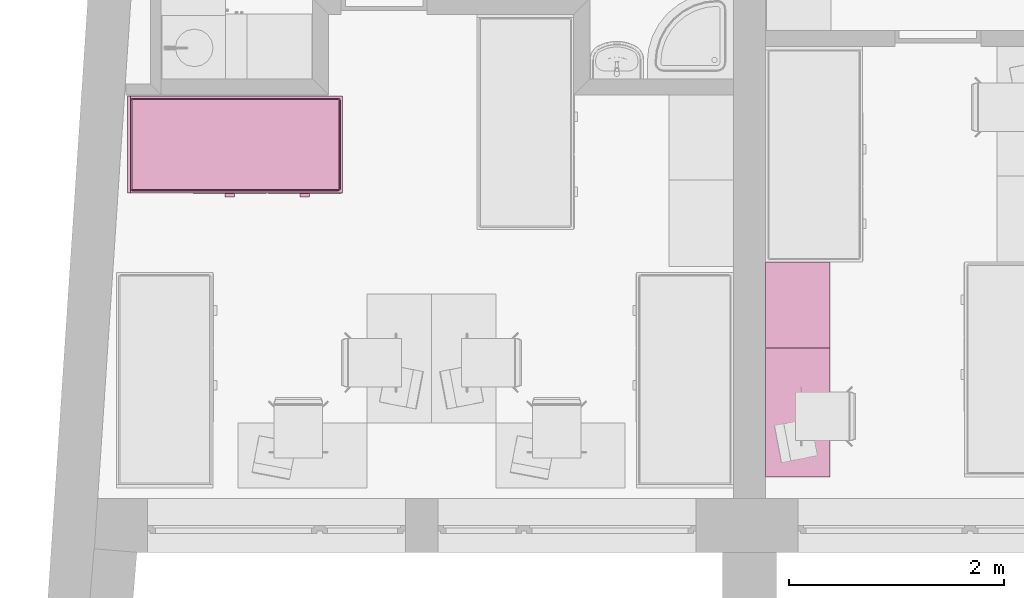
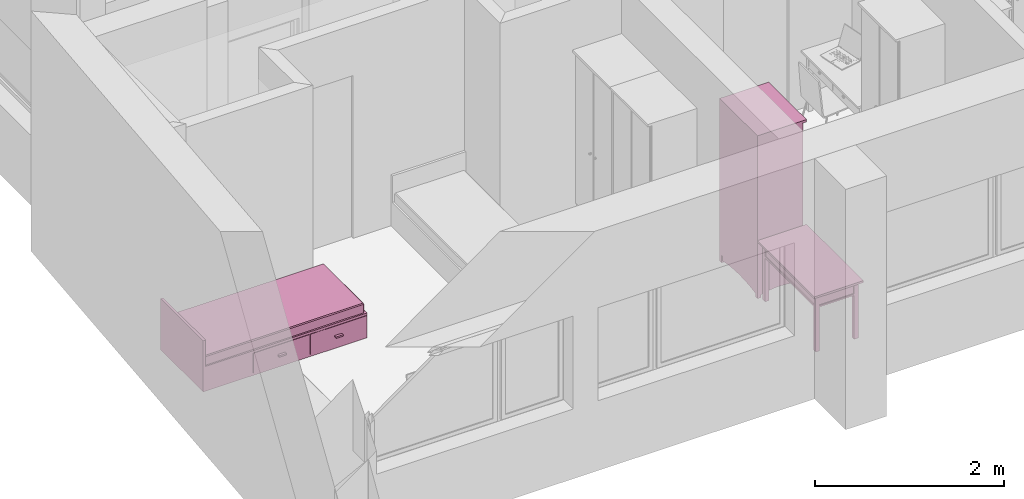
# One storey, part 76 of 172: 3 furnishings.
"""IFC2X3 building model written with IfcOpenShell, lengths in millimetres."""

from ifc_helpers import new_model, entity, si_unit, converted_unit, money_unit, direction, frame, origin_with_axes, place, context, subcontext, project, spatial, faceted_brep, source, transform, mapped, material, material_list, type_object, element, save


model = new_model("IFC2X3")

# Units and contexts
model_context = context("Model", 3, precision=1e-05, world=origin_with_axes(), true_north=direction((0.0, 1.0)))
body_context = subcontext(model_context, "Body", "Model", "MODEL_VIEW")
ifc_project = project(units=[si_unit("LENGTHUNIT", "METRE", prefix="MILLI"), si_unit("AREAUNIT", "SQUARE_METRE"), si_unit("VOLUMEUNIT", "CUBIC_METRE"), converted_unit("PLANEANGLEUNIT", "DEGREE", entity("IfcPlaneAngleMeasure", 0.0174532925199), si_unit("PLANEANGLEUNIT", "RADIAN"), dimensions=[0, 0, 0, 0, 0, 0, 0]), si_unit("SOLIDANGLEUNIT", "STERADIAN"), money_unit("USD"), converted_unit("TIMEUNIT", "Year", entity("IfcTimeMeasure", 31556926.0), si_unit("TIMEUNIT", "SECOND"), dimensions=[0, 0, 0, 0, 0, 0, 0]), si_unit("MASSUNIT", "GRAM"), si_unit("THERMODYNAMICTEMPERATUREUNIT", "DEGREE_CELSIUS"), si_unit("LUMINOUSINTENSITYUNIT", "LUMEN")], contexts=[model_context])

# Site, building, storey
site_placement = place(None, origin_with_axes())
site = spatial("IfcSite", under=ifc_project, at=site_placement, Name="Site", CompositionType="ELEMENT")
building_placement = place(site_placement, origin_with_axes())
building = spatial("IfcBuilding", under=site, at=building_placement, Name="Building", CompositionType="ELEMENT")
storey_placement = place(building_placement, frame((0.0, 0.0, 3200.0), z_axis=(0.0, 0.0, 1.0), x_axis=(1.0, 0.0, 0.0)))
storey = spatial("IfcBuildingStorey", under=building, at=storey_placement, Name="3KORRUS", CompositionType="ELEMENT", Elevation=3200.0)

# Furnishings
ifc_material = material(Name="Background")
ifc_material_list = material_list([ifc_material])
furnishing_element_type_1 = type_object("IfcFurnishingElementType", Name="Cupboard 19")
shared_shape_1 = source(origin_with_axes(), body_context, "Body", "Brep", [
    faceted_brep([(780.0, 600.0, 120.0), (780.0, 600.0, 2050.0), (780.0, 580.0, 2050.0), (780.0, 580.0, 120.0), (20.0, 600.0, 120.0), (20.0, 600.0, 2050.0), (20.0, 580.0, 2050.0), (20.0, 580.0, 120.0)], [[[0, 1, 2, 3]], [[4, 5, 1, 0]], [[1, 5, 6, 2]], [[3, 2, 6, 7]], [[0, 3, 7, 4]], [[7, 6, 5, 4]]]),
    faceted_brep([(0.0, 50.0, 100.0), (0.0, 600.0, 100.0), (20.0, 600.0, 100.0), (20.0, 50.0, 100.0), (0.0, 50.0, 2070.0), (0.0, 600.0, 2070.0), (20.0, 600.0, 2070.0), (20.0, 50.0, 2070.0)], [[[0, 1, 2, 3]], [[0, 4, 5, 1]], [[1, 5, 6, 2]], [[2, 6, 7, 3]], [[3, 7, 4, 0]], [[7, 6, 5, 4]]]),
    faceted_brep([(780.0, 50.0, 100.0), (780.0, 600.0, 100.0), (800.0, 600.0, 100.0), (800.0, 50.0, 100.0), (780.0, 50.0, 2070.0), (780.0, 600.0, 2070.0), (800.0, 600.0, 2070.0), (800.0, 50.0, 2070.0)], [[[0, 1, 2, 3]], [[0, 4, 5, 1]], [[1, 5, 6, 2]], [[2, 6, 7, 3]], [[3, 7, 4, 0]], [[7, 6, 5, 4]]]),
    faceted_brep([(20.0, 50.0, 100.0), (20.0, 600.0, 100.0), (780.0, 600.0, 100.0), (780.0, 50.0, 100.0), (20.0, 50.0, 120.0), (20.0, 600.0, 120.0), (780.0, 600.0, 120.0), (780.0, 50.0, 120.0)], [[[0, 1, 2, 3]], [[0, 4, 5, 1]], [[1, 5, 6, 2]], [[2, 6, 7, 3]], [[3, 7, 4, 0]], [[7, 6, 5, 4]]]),
    faceted_brep([(20.0, 50.0, 2050.0), (20.0, 600.0, 2050.0), (780.0, 600.0, 2050.0), (780.0, 50.0, 2050.0), (20.0, 50.0, 2070.0), (20.0, 600.0, 2070.0), (780.0, 600.0, 2070.0), (780.0, 50.0, 2070.0)], [[[0, 1, 2, 3]], [[0, 4, 5, 1]], [[1, 5, 6, 2]], [[2, 6, 7, 3]], [[3, 7, 4, 0]], [[7, 6, 5, 4]]]),
    faceted_brep([(0.0, 600.0, 2070.0), (0.0, 0.0, 2070.0), (0.0, 0.0, 2100.0), (0.0, 600.0, 2100.0), (800.0, 600.0, 2070.0), (800.0, 0.0, 2070.0), (800.0, 0.0, 2100.0), (800.0, 600.0, 2100.0)], [[[0, 1, 2, 3]], [[0, 4, 5, 1]], [[1, 5, 6, 2]], [[3, 2, 6, 7]], [[4, 0, 3, 7]], [[5, 4, 7, 6]]]),
    faceted_brep([(760.0, 590.0, 25.0), (760.0, 570.0, 25.0), (640.962, 570.0, 45.8), (640.962, 590.0, 45.8), (760.0, 590.0, 100.0), (760.0, 570.0, 100.0), (40.0, 570.0, 100.0), (40.0, 570.0, 25.0), (159.038, 570.0, 45.8), (279.23, 570.0, 58.32), (400.0, 570.0, 62.5), (520.77, 570.0, 58.32), (520.77, 590.0, 58.32), (400.0, 590.0, 62.5), (279.23, 590.0, 58.32), (159.038, 590.0, 45.8), (40.0, 590.0, 25.0), (40.0, 590.0, 100.0)], [[[0, 1, 2, 3]], [[4, 5, 1, 0]], [[1, 5, 6, 7, 8, 9, 10, 11, 2]], [[3, 2, 11, 12]], [[0, 3, 12, 13, 14, 15, 16, 17, 4]], [[17, 6, 5, 4]], [[16, 7, 6, 17]], [[15, 8, 7, 16]], [[14, 9, 8, 15]], [[13, 10, 9, 14]], [[12, 11, 10, 13]]]),
    faceted_brep([(760.0, 80.0, 25.0), (760.0, 60.0, 25.0), (640.962, 60.0, 45.8), (640.962, 80.0, 45.8), (760.0, 80.0, 100.0), (760.0, 60.0, 100.0), (40.0, 60.0, 100.0), (40.0, 60.0, 25.0), (159.038, 60.0, 45.8), (279.23, 60.0, 58.32), (400.0, 60.0, 62.5), (520.77, 60.0, 58.32), (520.77, 80.0, 58.32), (400.0, 80.0, 62.5), (279.23, 80.0, 58.32), (159.038, 80.0, 45.8), (40.0, 80.0, 25.0), (40.0, 80.0, 100.0)], [[[0, 1, 2, 3]], [[4, 5, 1, 0]], [[1, 5, 6, 7, 8, 9, 10, 11, 2]], [[3, 2, 11, 12]], [[0, 3, 12, 13, 14, 15, 16, 17, 4]], [[17, 6, 5, 4]], [[16, 7, 6, 17]], [[15, 8, 7, 16]], [[14, 9, 8, 15]], [[13, 10, 9, 14]], [[12, 11, 10, 13]]]),
    faceted_brep([(790.0, 90.0, 25.0), (770.0, 90.0, 25.0), (770.0, 141.266, 38.072), (790.0, 141.266, 38.072), (790.0, 90.0, 100.0), (770.0, 90.0, 100.0), (770.0, 560.0, 100.0), (770.0, 560.0, 25.0), (770.0, 508.734, 38.072), (770.0, 456.752, 47.92), (770.0, 404.257, 54.508), (770.0, 351.453, 57.808), (770.0, 298.547, 57.808), (770.0, 245.743, 54.508), (770.0, 193.248, 47.92), (790.0, 193.248, 47.92), (790.0, 245.743, 54.508), (790.0, 298.547, 57.808), (790.0, 351.453, 57.808), (790.0, 404.257, 54.508), (790.0, 456.752, 47.92), (790.0, 508.734, 38.072), (790.0, 560.0, 25.0), (790.0, 560.0, 100.0)], [[[0, 1, 2, 3]], [[4, 5, 1, 0]], [[1, 5, 6, 7, 8, 9, 10, 11, 12, 13, 14, 2]], [[3, 2, 14, 15]], [[0, 3, 15, 16, 17, 18, 19, 20, 21, 22, 23, 4]], [[23, 6, 5, 4]], [[22, 7, 6, 23]], [[21, 8, 7, 22]], [[20, 9, 8, 21]], [[19, 10, 9, 20]], [[18, 11, 10, 19]], [[17, 12, 11, 18]], [[16, 13, 12, 17]], [[15, 14, 13, 16]]]),
    faceted_brep([(30.0, 90.0, 25.0), (10.0, 90.0, 25.0), (10.0, 141.266, 38.072), (30.0, 141.266, 38.072), (30.0, 90.0, 100.0), (10.0, 90.0, 100.0), (10.0, 560.0, 100.0), (10.0, 560.0, 25.0), (10.0, 508.734, 38.072), (10.0, 456.752, 47.92), (10.0, 404.257, 54.508), (10.0, 351.453, 57.808), (10.0, 298.547, 57.808), (10.0, 245.743, 54.508), (10.0, 193.248, 47.92), (30.0, 193.248, 47.92), (30.0, 245.743, 54.508), (30.0, 298.547, 57.808), (30.0, 351.453, 57.808), (30.0, 404.257, 54.508), (30.0, 456.752, 47.92), (30.0, 508.734, 38.072), (30.0, 560.0, 25.0), (30.0, 560.0, 100.0)], [[[0, 1, 2, 3]], [[4, 5, 1, 0]], [[1, 5, 6, 7, 8, 9, 10, 11, 12, 13, 14, 2]], [[3, 2, 14, 15]], [[0, 3, 15, 16, 17, 18, 19, 20, 21, 22, 23, 4]], [[23, 6, 5, 4]], [[22, 7, 6, 23]], [[21, 8, 7, 22]], [[20, 9, 8, 21]], [[19, 10, 9, 20]], [[18, 11, 10, 19]], [[17, 12, 11, 18]], [[16, 13, 12, 17]], [[15, 14, 13, 16]]]),
    faceted_brep([(760.0, 560.0, 0.0), (760.0, 560.0, 100.0), (760.0, 600.0, 100.0), (760.0, 600.0, 0.0), (800.0, 560.0, 0.0), (800.0, 560.0, 100.0), (800.0, 600.0, 100.0), (800.0, 600.0, 0.0)], [[[0, 1, 2, 3]], [[4, 5, 1, 0]], [[1, 5, 6, 2]], [[3, 2, 6, 7]], [[0, 3, 7, 4]], [[7, 6, 5, 4]]]),
    faceted_brep([(0.0, 560.0, 0.0), (0.0, 560.0, 100.0), (0.0, 600.0, 100.0), (0.0, 600.0, 0.0), (40.0, 560.0, 0.0), (40.0, 560.0, 100.0), (40.0, 600.0, 100.0), (40.0, 600.0, 0.0)], [[[0, 1, 2, 3]], [[4, 5, 1, 0]], [[1, 5, 6, 2]], [[3, 2, 6, 7]], [[0, 3, 7, 4]], [[7, 6, 5, 4]]]),
    faceted_brep([(760.0, 50.0, 0.0), (760.0, 50.0, 100.0), (760.0, 90.0, 100.0), (760.0, 90.0, 0.0), (800.0, 50.0, 0.0), (800.0, 50.0, 100.0), (800.0, 90.0, 100.0), (800.0, 90.0, 0.0)], [[[0, 1, 2, 3]], [[4, 5, 1, 0]], [[1, 5, 6, 2]], [[3, 2, 6, 7]], [[0, 3, 7, 4]], [[7, 6, 5, 4]]]),
    faceted_brep([(0.0, 50.0, 0.0), (0.0, 50.0, 100.0), (0.0, 90.0, 100.0), (0.0, 90.0, 0.0), (40.0, 50.0, 0.0), (40.0, 50.0, 100.0), (40.0, 90.0, 100.0), (40.0, 90.0, 0.0)], [[[0, 1, 2, 3]], [[4, 5, 1, 0]], [[1, 5, 6, 2]], [[3, 2, 6, 7]], [[0, 3, 7, 4]], [[7, 6, 5, 4]]]),
    faceted_brep([(780.0, 580.0, 587.5), (780.0, 580.0, 607.5), (780.0, 50.0, 607.5), (780.0, 50.0, 587.5), (20.0, 580.0, 587.5), (20.0, 580.0, 607.5), (20.0, 50.0, 607.5), (20.0, 50.0, 587.5)], [[[0, 1, 2, 3]], [[4, 5, 1, 0]], [[1, 5, 6, 2]], [[3, 2, 6, 7]], [[0, 3, 7, 4]], [[7, 6, 5, 4]]]),
    faceted_brep([(780.0, 580.0, 1075.0), (780.0, 580.0, 1095.0), (780.0, 50.0, 1095.0), (780.0, 50.0, 1075.0), (20.0, 580.0, 1075.0), (20.0, 580.0, 1095.0), (20.0, 50.0, 1095.0), (20.0, 50.0, 1075.0)], [[[0, 1, 2, 3]], [[4, 5, 1, 0]], [[1, 5, 6, 2]], [[3, 2, 6, 7]], [[0, 3, 7, 4]], [[7, 6, 5, 4]]]),
    faceted_brep([(780.0, 580.0, 1562.5), (780.0, 580.0, 1582.5), (780.0, 50.0, 1582.5), (780.0, 50.0, 1562.5), (20.0, 580.0, 1562.5), (20.0, 580.0, 1582.5), (20.0, 50.0, 1582.5), (20.0, 50.0, 1562.5)], [[[0, 1, 2, 3]], [[4, 5, 1, 0]], [[1, 5, 6, 2]], [[3, 2, 6, 7]], [[0, 3, 7, 4]], [[7, 6, 5, 4]]]),
    faceted_brep([(789.5, 50.0, 110.5), (400.5, 50.0, 110.5), (400.5, 50.0, 2059.5), (789.5, 50.0, 2059.5), (789.5, 40.0, 110.5), (400.5, 40.0, 110.5), (400.5, 40.0, 2059.5), (789.5, 40.0, 2059.5), (779.5, 30.0, 120.5), (410.5, 30.0, 120.5), (410.5, 30.0, 2049.5), (779.5, 30.0, 2049.5)], [[[0, 1, 2, 3]], [[0, 4, 5, 1]], [[1, 5, 6, 2]], [[2, 6, 7, 3]], [[3, 7, 4, 0]], [[4, 8, 9, 5]], [[5, 9, 10, 6]], [[6, 10, 11, 7]], [[7, 11, 8, 4]], [[10, 9, 8, 11]]]),
    faceted_brep([(399.5, 50.0, 110.5), (10.5, 50.0, 110.5), (10.5, 50.0, 2059.5), (399.5, 50.0, 2059.5), (399.5, 40.0, 110.5), (10.5, 40.0, 110.5), (10.5, 40.0, 2059.5), (399.5, 40.0, 2059.5), (389.5, 30.0, 120.5), (20.5, 30.0, 120.5), (20.5, 30.0, 2049.5), (389.5, 30.0, 2049.5)], [[[0, 1, 2, 3]], [[0, 4, 5, 1]], [[1, 5, 6, 2]], [[2, 6, 7, 3]], [[3, 7, 4, 0]], [[4, 8, 9, 5]], [[5, 9, 10, 6]], [[6, 10, 11, 7]], [[7, 11, 8, 4]], [[10, 9, 8, 11]]]),
    faceted_brep([(339.608, 30.0, 954.0), (338.0, 30.0, 960.0), (339.608, 30.0, 966.0), (344.0, 30.0, 970.392), (350.0, 30.0, 972.0), (356.0, 30.0, 970.392), (360.392, 30.0, 966.0), (362.0, 30.0, 960.0), (360.392, 30.0, 954.0), (356.0, 30.0, 949.608), (350.0, 30.0, 948.0), (344.0, 30.0, 949.608), (339.608, 5.0, 954.0), (338.0, 5.0, 960.0), (339.608, 5.0, 966.0), (344.0, 5.0, 970.392), (350.0, 5.0, 972.0), (356.0, 5.0, 970.392), (360.392, 5.0, 966.0), (362.0, 5.0, 960.0), (360.392, 5.0, 954.0), (356.0, 5.0, 949.608), (350.0, 5.0, 948.0), (344.0, 5.0, 949.608)], [[[0, 1, 2, 3, 4, 5, 6, 7, 8, 9, 10, 11]], [[0, 12, 13, 1]], [[1, 13, 14, 2]], [[2, 14, 15, 3]], [[3, 15, 16, 4]], [[4, 16, 17, 5]], [[5, 17, 18, 6]], [[6, 18, 19, 7]], [[7, 19, 20, 8]], [[8, 20, 21, 9]], [[9, 21, 22, 10]], [[10, 22, 23, 11]], [[11, 23, 12, 0]], [[12, 23, 22, 21, 20, 19, 18, 17, 16, 15, 14, 13]]]),
    faceted_brep([(460.392, 30.0, 954.0), (456.0, 30.0, 949.608), (450.0, 30.0, 948.0), (444.0, 30.0, 949.608), (439.608, 30.0, 954.0), (438.0, 30.0, 960.0), (439.608, 30.0, 966.0), (444.0, 30.0, 970.392), (450.0, 30.0, 972.0), (456.0, 30.0, 970.392), (460.392, 30.0, 966.0), (462.0, 30.0, 960.0), (460.392, 5.0, 954.0), (456.0, 5.0, 949.608), (450.0, 5.0, 948.0), (444.0, 5.0, 949.608), (439.608, 5.0, 954.0), (438.0, 5.0, 960.0), (439.608, 5.0, 966.0), (444.0, 5.0, 970.392), (450.0, 5.0, 972.0), (456.0, 5.0, 970.392), (460.392, 5.0, 966.0), (462.0, 5.0, 960.0)], [[[0, 1, 2, 3, 4, 5, 6, 7, 8, 9, 10, 11]], [[1, 0, 12, 13]], [[2, 1, 13, 14]], [[3, 2, 14, 15]], [[4, 3, 15, 16]], [[5, 4, 16, 17]], [[6, 5, 17, 18]], [[7, 6, 18, 19]], [[8, 7, 19, 20]], [[9, 8, 20, 21]], [[10, 9, 21, 22]], [[11, 10, 22, 23]], [[0, 11, 23, 12]], [[12, 23, 22, 21, 20, 19, 18, 17, 16, 15, 14, 13]]]),
])
furnishing_1_placement = place(storey_placement, frame((-47390.2967033, -18239.2398994, 0.0), z_axis=(0.0, 0.0, 1.0), x_axis=(0.0, 1.0, 0.0)))
element("IfcFurnishingElement", 1, at=furnishing_1_placement, inside=storey, type_object=furnishing_element_type_1, material=ifc_material_list, Name="FU - 014", context=body_context, shape_type="MappedRepresentation", body=[
    mapped(shared_shape_1, transform((0.0, 0.0, 0.0))),
])
furnishing_element_type_2 = type_object("IfcFurnishingElementType", Name="Rectangular Table 01 19")
shared_shape_2 = source(origin_with_axes(), body_context, "Body", "Brep", [
    faceted_brep([(90.0, 40.0, 0.0), (40.0, 40.0, 0.0), (40.0, 90.0, 0.0), (90.0, 90.0, 0.0), (90.0, 40.0, 725.0), (40.0, 40.0, 725.0), (40.0, 90.0, 725.0), (90.0, 90.0, 725.0)], [[[0, 1, 2, 3]], [[1, 0, 4, 5]], [[2, 1, 5, 6]], [[3, 2, 6, 7]], [[0, 3, 7, 4]], [[5, 4, 7, 6]]]),
    faceted_brep([(1160.0, 40.0, 0.0), (1110.0, 40.0, 0.0), (1110.0, 90.0, 0.0), (1160.0, 90.0, 0.0), (1160.0, 40.0, 725.0), (1110.0, 40.0, 725.0), (1110.0, 90.0, 725.0), (1160.0, 90.0, 725.0)], [[[0, 1, 2, 3]], [[1, 0, 4, 5]], [[2, 1, 5, 6]], [[3, 2, 6, 7]], [[0, 3, 7, 4]], [[5, 4, 7, 6]]]),
    faceted_brep([(90.0, 510.0, 0.0), (40.0, 510.0, 0.0), (40.0, 560.0, 0.0), (90.0, 560.0, 0.0), (90.0, 510.0, 725.0), (40.0, 510.0, 725.0), (40.0, 560.0, 725.0), (90.0, 560.0, 725.0)], [[[0, 1, 2, 3]], [[1, 0, 4, 5]], [[2, 1, 5, 6]], [[3, 2, 6, 7]], [[0, 3, 7, 4]], [[5, 4, 7, 6]]]),
    faceted_brep([(1160.0, 510.0, 0.0), (1110.0, 510.0, 0.0), (1110.0, 560.0, 0.0), (1160.0, 560.0, 0.0), (1160.0, 510.0, 725.0), (1110.0, 510.0, 725.0), (1110.0, 560.0, 725.0), (1160.0, 560.0, 725.0)], [[[0, 1, 2, 3]], [[1, 0, 4, 5]], [[2, 1, 5, 6]], [[3, 2, 6, 7]], [[0, 3, 7, 4]], [[5, 4, 7, 6]]]),
    faceted_brep([(1160.0, 40.0, 565.0), (40.0, 40.0, 565.0), (40.0, 560.0, 565.0), (1160.0, 560.0, 565.0), (1160.0, 40.0, 585.0), (40.0, 40.0, 585.0), (40.0, 560.0, 585.0), (1160.0, 560.0, 585.0)], [[[0, 1, 2, 3]], [[1, 0, 4, 5]], [[2, 1, 5, 6]], [[3, 2, 6, 7]], [[0, 3, 7, 4]], [[5, 4, 7, 6]]]),
    faceted_brep([(1110.0, 52.5, 585.0), (90.0, 52.5, 585.0), (90.0, 77.5, 585.0), (1110.0, 77.5, 585.0), (1110.0, 52.5, 745.0), (90.0, 52.5, 745.0), (90.0, 77.5, 745.0), (1110.0, 77.5, 745.0)], [[[0, 1, 2, 3]], [[1, 0, 4, 5]], [[2, 1, 5, 6]], [[3, 2, 6, 7]], [[0, 3, 7, 4]], [[5, 4, 7, 6]]]),
    faceted_brep([(77.5, 90.0, 585.0), (52.5, 90.0, 585.0), (52.5, 510.0, 585.0), (77.5, 510.0, 585.0), (77.5, 90.0, 745.0), (52.5, 90.0, 745.0), (52.5, 510.0, 745.0), (77.5, 510.0, 745.0)], [[[0, 1, 2, 3]], [[1, 0, 4, 5]], [[2, 1, 5, 6]], [[3, 2, 6, 7]], [[0, 3, 7, 4]], [[5, 4, 7, 6]]]),
    faceted_brep([(90.0, 547.5, 585.0), (1110.0, 547.5, 585.0), (1110.0, 522.5, 585.0), (90.0, 522.5, 585.0), (90.0, 547.5, 745.0), (1110.0, 547.5, 745.0), (1110.0, 522.5, 745.0), (90.0, 522.5, 745.0)], [[[0, 1, 2, 3]], [[1, 0, 4, 5]], [[2, 1, 5, 6]], [[3, 2, 6, 7]], [[0, 3, 7, 4]], [[5, 4, 7, 6]]]),
    faceted_brep([(1122.5, 510.0, 585.0), (1147.5, 510.0, 585.0), (1147.5, 90.0, 585.0), (1122.5, 90.0, 585.0), (1122.5, 510.0, 745.0), (1147.5, 510.0, 745.0), (1147.5, 90.0, 745.0), (1122.5, 90.0, 745.0)], [[[0, 1, 2, 3]], [[1, 0, 4, 5]], [[2, 1, 5, 6]], [[3, 2, 6, 7]], [[0, 3, 7, 4]], [[5, 4, 7, 6]]]),
    faceted_brep([(597.5, 40.0, 585.0), (95.0, 40.0, 585.0), (95.0, 60.0, 585.0), (597.5, 60.0, 585.0), (597.5, 40.0, 745.0), (95.0, 40.0, 745.0), (95.0, 60.0, 745.0), (597.5, 60.0, 745.0)], [[[0, 1, 2, 3]], [[1, 0, 4, 5]], [[2, 1, 5, 6]], [[3, 2, 6, 7]], [[0, 3, 7, 4]], [[5, 4, 7, 6]]]),
    faceted_brep([(1105.0, 40.0, 585.0), (602.5, 40.0, 585.0), (602.5, 60.0, 585.0), (1105.0, 60.0, 585.0), (1105.0, 40.0, 745.0), (602.5, 40.0, 745.0), (602.5, 60.0, 745.0), (1105.0, 60.0, 745.0)], [[[0, 1, 2, 3]], [[1, 0, 4, 5]], [[2, 1, 5, 6]], [[3, 2, 6, 7]], [[0, 3, 7, 4]], [[5, 4, 7, 6]]]),
    faceted_brep([(354.91, 40.0, 660.0), (351.25, 40.0, 656.34), (346.25, 40.0, 655.0), (341.25, 40.0, 656.34), (337.59, 40.0, 660.0), (336.25, 40.0, 665.0), (337.59, 40.0, 670.0), (341.25, 40.0, 673.66), (346.25, 40.0, 675.0), (351.25, 40.0, 673.66), (354.91, 40.0, 670.0), (356.25, 40.0, 665.0), (354.91, 25.0, 660.0), (351.25, 25.0, 656.34), (346.25, 25.0, 655.0), (341.25, 25.0, 656.34), (337.59, 25.0, 660.0), (336.25, 25.0, 665.0), (337.59, 25.0, 670.0), (341.25, 25.0, 673.66), (346.25, 25.0, 675.0), (351.25, 25.0, 673.66), (354.91, 25.0, 670.0), (356.25, 25.0, 665.0)], [[[0, 1, 2, 3, 4, 5, 6, 7, 8, 9, 10, 11]], [[1, 0, 12, 13]], [[2, 1, 13, 14]], [[3, 2, 14, 15]], [[4, 3, 15, 16]], [[5, 4, 16, 17]], [[6, 5, 17, 18]], [[7, 6, 18, 19]], [[8, 7, 19, 20]], [[9, 8, 20, 21]], [[10, 9, 21, 22]], [[11, 10, 22, 23]], [[0, 11, 23, 12]], [[12, 23, 22, 21, 20, 19, 18, 17, 16, 15, 14, 13]]]),
    faceted_brep([(356.25, 12.01, 665.0), (346.25, 10.0, 665.0), (354.91, 12.01, 660.0), (354.91, 12.01, 670.0), (351.25, 12.01, 656.34), (363.571, 17.5, 665.0), (361.25, 17.5, 656.34), (351.25, 12.01, 673.66), (361.25, 17.5, 673.66), (346.25, 12.01, 655.0), (354.91, 17.5, 650.0), (366.25, 25.0, 665.0), (363.571, 25.0, 655.0), (346.25, 12.01, 675.0), (354.91, 17.5, 680.0), (363.571, 25.0, 675.0), (341.25, 12.01, 656.34), (346.25, 17.5, 647.679), (356.25, 25.0, 647.679), (346.25, 25.0, 645.0), (336.25, 25.0, 647.679), (328.929, 25.0, 655.0), (326.25, 25.0, 665.0), (328.929, 25.0, 675.0), (336.25, 25.0, 682.321), (346.25, 25.0, 685.0), (356.25, 25.0, 682.321), (341.25, 12.01, 673.66), (346.25, 17.5, 682.321), (337.59, 12.01, 660.0), (337.59, 17.5, 650.0), (331.25, 17.5, 656.34), (328.929, 17.5, 665.0), (331.25, 17.5, 673.66), (337.59, 17.5, 680.0), (337.59, 12.01, 670.0), (336.25, 12.01, 665.0)], [[[0, 1, 2]], [[3, 1, 0]], [[2, 1, 4]], [[5, 0, 2, 6]], [[7, 1, 3]], [[8, 3, 0, 5]], [[4, 1, 9]], [[6, 2, 4, 10]], [[11, 5, 6, 12]], [[13, 1, 7]], [[14, 7, 3, 8]], [[15, 8, 5, 11]], [[9, 1, 16]], [[10, 4, 9, 17]], [[12, 6, 10, 18]], [[12, 18, 19, 20, 21, 22, 23, 24, 25, 26, 15, 11]], [[27, 1, 13]], [[28, 13, 7, 14]], [[26, 14, 8, 15]], [[16, 1, 29]], [[17, 9, 16, 30]], [[18, 10, 17, 19]], [[19, 17, 30, 20]], [[20, 30, 31, 21]], [[21, 31, 32, 22]], [[22, 32, 33, 23]], [[23, 33, 34, 24]], [[24, 34, 28, 25]], [[25, 28, 14, 26]], [[35, 1, 27]], [[34, 27, 13, 28]], [[29, 1, 36]], [[30, 16, 29, 31]], [[31, 29, 36, 32]], [[32, 36, 35, 33]], [[33, 35, 27, 34]], [[36, 1, 35]]]),
    faceted_brep([(862.41, 40.0, 660.0), (858.75, 40.0, 656.34), (853.75, 40.0, 655.0), (848.75, 40.0, 656.34), (845.09, 40.0, 660.0), (843.75, 40.0, 665.0), (845.09, 40.0, 670.0), (848.75, 40.0, 673.66), (853.75, 40.0, 675.0), (858.75, 40.0, 673.66), (862.41, 40.0, 670.0), (863.75, 40.0, 665.0), (862.41, 25.0, 660.0), (858.75, 25.0, 656.34), (853.75, 25.0, 655.0), (848.75, 25.0, 656.34), (845.09, 25.0, 660.0), (843.75, 25.0, 665.0), (845.09, 25.0, 670.0), (848.75, 25.0, 673.66), (853.75, 25.0, 675.0), (858.75, 25.0, 673.66), (862.41, 25.0, 670.0), (863.75, 25.0, 665.0)], [[[0, 1, 2, 3, 4, 5, 6, 7, 8, 9, 10, 11]], [[1, 0, 12, 13]], [[2, 1, 13, 14]], [[3, 2, 14, 15]], [[4, 3, 15, 16]], [[5, 4, 16, 17]], [[6, 5, 17, 18]], [[7, 6, 18, 19]], [[8, 7, 19, 20]], [[9, 8, 20, 21]], [[10, 9, 21, 22]], [[11, 10, 22, 23]], [[0, 11, 23, 12]], [[12, 23, 22, 21, 20, 19, 18, 17, 16, 15, 14, 13]]]),
    faceted_brep([(863.75, 12.01, 665.0), (853.75, 10.0, 665.0), (862.41, 12.01, 660.0), (862.41, 12.01, 670.0), (858.75, 12.01, 656.34), (871.071, 17.5, 665.0), (868.75, 17.5, 656.34), (858.75, 12.01, 673.66), (868.75, 17.5, 673.66), (853.75, 12.01, 655.0), (862.41, 17.5, 650.0), (873.75, 25.0, 665.0), (871.071, 25.0, 655.0), (853.75, 12.01, 675.0), (862.41, 17.5, 680.0), (871.071, 25.0, 675.0), (848.75, 12.01, 656.34), (853.75, 17.5, 647.679), (863.75, 25.0, 647.679), (853.75, 25.0, 645.0), (843.75, 25.0, 647.679), (836.429, 25.0, 655.0), (833.75, 25.0, 665.0), (836.429, 25.0, 675.0), (843.75, 25.0, 682.321), (853.75, 25.0, 685.0), (863.75, 25.0, 682.321), (848.75, 12.01, 673.66), (853.75, 17.5, 682.321), (845.09, 12.01, 660.0), (845.09, 17.5, 650.0), (838.75, 17.5, 656.34), (836.429, 17.5, 665.0), (838.75, 17.5, 673.66), (845.09, 17.5, 680.0), (845.09, 12.01, 670.0), (843.75, 12.01, 665.0)], [[[0, 1, 2]], [[3, 1, 0]], [[2, 1, 4]], [[5, 0, 2, 6]], [[7, 1, 3]], [[8, 3, 0, 5]], [[4, 1, 9]], [[6, 2, 4, 10]], [[11, 5, 6, 12]], [[13, 1, 7]], [[14, 7, 3, 8]], [[15, 8, 5, 11]], [[9, 1, 16]], [[10, 4, 9, 17]], [[12, 6, 10, 18]], [[12, 18, 19, 20, 21, 22, 23, 24, 25, 26, 15, 11]], [[27, 1, 13]], [[28, 13, 7, 14]], [[26, 14, 8, 15]], [[16, 1, 29]], [[17, 9, 16, 30]], [[18, 10, 17, 19]], [[19, 17, 30, 20]], [[20, 30, 31, 21]], [[21, 31, 32, 22]], [[22, 32, 33, 23]], [[23, 33, 34, 24]], [[24, 34, 28, 25]], [[25, 28, 14, 26]], [[35, 1, 27]], [[34, 27, 13, 28]], [[29, 1, 36]], [[30, 16, 29, 31]], [[31, 29, 36, 32]], [[32, 36, 35, 33]], [[33, 35, 27, 34]], [[36, 1, 35]]]),
    faceted_brep([(1200.0, 0.0, 725.0), (0.0, 0.0, 725.0), (0.0, 600.0, 725.0), (1200.0, 600.0, 725.0), (1200.0, 0.0, 750.0), (0.0, 0.0, 750.0), (0.0, 600.0, 750.0), (1200.0, 600.0, 750.0)], [[[0, 1, 2, 3]], [[1, 0, 4, 5]], [[2, 1, 5, 6]], [[3, 2, 6, 7]], [[0, 3, 7, 4]], [[5, 4, 7, 6]]]),
])
furnishing_2_placement = place(storey_placement, frame((-47390.2967033, -19439.2398994, 0.0), z_axis=(0.0, 0.0, 1.0), x_axis=(0.0, 1.0, 0.0)))
element("IfcFurnishingElement", 2, at=furnishing_2_placement, inside=storey, type_object=furnishing_element_type_2, material=ifc_material_list, Name="FU - 011", context=body_context, shape_type="MappedRepresentation", body=[
    mapped(shared_shape_2, transform((0.0, 0.0, 0.0))),
])
furnishing_element_type_3 = type_object("IfcFurnishingElementType", Name="Bed 19")
shared_shape_3 = source(origin_with_axes(), body_context, "Body", "Brep", [
    faceted_brep([(-900.0, 1970.0, 0.0), (-900.0, 2000.0, 0.0), (0.0, 2000.0, 0.0), (0.0, 1970.0, 0.0), (-900.0, 1970.0, 660.0), (-900.0, 2000.0, 660.0), (0.0, 2000.0, 660.0), (0.0, 1970.0, 660.0)], [[[0, 1, 2, 3]], [[0, 4, 5, 1]], [[1, 5, 6, 2]], [[2, 6, 7, 3]], [[3, 7, 4, 0]], [[7, 6, 5, 4]]]),
    faceted_brep([(-900.0, 0.0, 0.0), (-900.0, 1970.0, 0.0), (0.0, 1970.0, 0.0), (0.0, 0.0, 0.0), (-900.0, 0.0, 320.0), (-900.0, 1970.0, 320.0), (0.0, 1970.0, 320.0), (0.0, 0.0, 320.0)], [[[0, 1, 2, 3]], [[0, 4, 5, 1]], [[1, 5, 6, 2]], [[2, 6, 7, 3]], [[3, 7, 4, 0]], [[7, 6, 5, 4]]]),
    faceted_brep([(-905.0, 10.0, 30.0), (-905.0, 695.0, 30.0), (-900.0, 695.0, 30.0), (-900.0, 10.0, 30.0), (-905.0, 10.0, 290.0), (-905.0, 695.0, 290.0), (-900.0, 695.0, 290.0), (-900.0, 10.0, 290.0)], [[[0, 1, 2, 3]], [[0, 4, 5, 1]], [[1, 5, 6, 2]], [[2, 6, 7, 3]], [[3, 7, 4, 0]], [[7, 6, 5, 4]]]),
    faceted_brep([(-935.0, 307.5, 150.0), (-935.0, 397.5, 150.0), (-905.0, 397.5, 150.0), (-905.0, 307.5, 150.0), (-935.0, 307.5, 170.0), (-935.0, 397.5, 170.0), (-905.0, 397.5, 170.0), (-905.0, 307.5, 170.0)], [[[0, 1, 2, 3]], [[0, 4, 5, 1]], [[1, 5, 6, 2]], [[2, 6, 7, 3]], [[3, 7, 4, 0]], [[7, 6, 5, 4]]]),
    faceted_brep([(-905.0, 705.0, 30.0), (-905.0, 1390.0, 30.0), (-900.0, 1390.0, 30.0), (-900.0, 705.0, 30.0), (-905.0, 705.0, 290.0), (-905.0, 1390.0, 290.0), (-900.0, 1390.0, 290.0), (-900.0, 705.0, 290.0)], [[[0, 1, 2, 3]], [[0, 4, 5, 1]], [[1, 5, 6, 2]], [[2, 6, 7, 3]], [[3, 7, 4, 0]], [[7, 6, 5, 4]]]),
    faceted_brep([(-935.0, 1002.5, 150.0), (-935.0, 1092.5, 150.0), (-905.0, 1092.5, 150.0), (-905.0, 1002.5, 150.0), (-935.0, 1002.5, 170.0), (-935.0, 1092.5, 170.0), (-905.0, 1092.5, 170.0), (-905.0, 1002.5, 170.0)], [[[0, 1, 2, 3]], [[0, 4, 5, 1]], [[1, 5, 6, 2]], [[2, 6, 7, 3]], [[3, 7, 4, 0]], [[7, 6, 5, 4]]]),
    faceted_brep([(-20.0, 40.0, 350.0), (-21.522, 32.346, 350.0), (-25.858, 25.858, 350.0), (-32.346, 21.522, 350.0), (-40.0, 20.0, 350.0), (-860.0, 20.0, 350.0), (-867.654, 21.522, 350.0), (-874.142, 25.858, 350.0), (-878.478, 32.346, 350.0), (-880.0, 40.0, 350.0), (-880.0, 1950.0, 350.0), (-878.478, 1957.654, 350.0), (-874.142, 1964.142, 350.0), (-867.654, 1968.478, 350.0), (-860.0, 1970.0, 350.0), (-40.0, 1970.0, 350.0), (-32.346, 1968.478, 350.0), (-25.858, 1964.142, 350.0), (-21.522, 1957.654, 350.0), (-20.0, 1950.0, 350.0), (-20.0, 40.0, 420.0), (-21.522, 32.346, 420.0), (-25.858, 25.858, 420.0), (-32.346, 21.522, 420.0), (-40.0, 20.0, 420.0), (-860.0, 20.0, 420.0), (-867.654, 21.522, 420.0), (-874.142, 25.858, 420.0), (-878.478, 32.346, 420.0), (-880.0, 40.0, 420.0), (-880.0, 1950.0, 420.0), (-878.478, 1957.654, 420.0), (-874.142, 1964.142, 420.0), (-867.654, 1968.478, 420.0), (-860.0, 1970.0, 420.0), (-40.0, 1970.0, 420.0), (-32.346, 1968.478, 420.0), (-25.858, 1964.142, 420.0), (-21.522, 1957.654, 420.0), (-20.0, 1950.0, 420.0), (-21.522, 40.15, 427.654), (-22.956, 32.94, 427.654), (-26.955, 26.955, 427.654), (-32.94, 22.956, 427.654), (-40.15, 21.522, 427.654), (-859.85, 21.522, 427.654), (-867.06, 22.956, 427.654), (-873.045, 26.955, 427.654), (-877.044, 32.94, 427.654), (-878.478, 40.15, 427.654), (-878.478, 1949.85, 427.654), (-877.044, 1957.06, 427.654), (-873.045, 1963.045, 427.654), (-867.06, 1967.044, 427.654), (-859.85, 1968.478, 427.654), (-40.15, 1968.478, 427.654), (-32.94, 1967.044, 427.654), (-26.955, 1963.045, 427.654), (-22.956, 1957.06, 427.654), (-21.522, 1949.85, 427.654), (-32.346, 41.216, 438.478), (-33.152, 37.164, 438.478), (-34.759, 34.759, 438.478), (-37.164, 33.152, 438.478), (-41.216, 32.346, 438.478), (-858.784, 32.346, 438.478), (-862.836, 33.152, 438.478), (-865.241, 34.759, 438.478), (-866.848, 37.164, 438.478), (-867.654, 41.216, 438.478), (-867.654, 1948.784, 438.478), (-866.848, 1952.836, 438.478), (-865.241, 1955.241, 438.478), (-862.836, 1956.848, 438.478), (-858.784, 1957.654, 438.478), (-41.216, 1957.654, 438.478), (-37.164, 1956.848, 438.478), (-34.759, 1955.241, 438.478), (-33.152, 1952.836, 438.478), (-32.346, 1948.784, 438.478), (-40.0, 41.97, 440.0), (-40.327, 40.327, 440.0), (-40.0, 40.0, 439.924), (-41.97, 40.0, 440.0), (-858.03, 40.0, 440.0), (-859.673, 40.327, 440.0), (-860.0, 40.0, 439.924), (-860.0, 41.97, 440.0), (-860.0, 1948.03, 440.0), (-859.673, 1949.673, 440.0), (-860.0, 1950.0, 439.924), (-858.03, 1950.0, 440.0), (-41.97, 1950.0, 440.0), (-40.327, 1949.673, 440.0), (-40.0, 1950.0, 439.924), (-40.0, 1948.03, 440.0)], [[[0, 1, 2, 3, 4, 5, 6, 7, 8, 9, 10, 11, 12, 13, 14, 15, 16, 17, 18, 19]], [[0, 20, 21, 1]], [[1, 21, 22, 2]], [[2, 22, 23, 3]], [[3, 23, 24, 4]], [[4, 24, 25, 5]], [[5, 25, 26, 6]], [[6, 26, 27, 7]], [[7, 27, 28, 8]], [[8, 28, 29, 9]], [[9, 29, 30, 10]], [[10, 30, 31, 11]], [[11, 31, 32, 12]], [[12, 32, 33, 13]], [[13, 33, 34, 14]], [[14, 34, 35, 15]], [[15, 35, 36, 16]], [[16, 36, 37, 17]], [[17, 37, 38, 18]], [[18, 38, 39, 19]], [[19, 39, 20, 0]], [[20, 40, 41, 21]], [[21, 41, 42, 22]], [[22, 42, 43, 23]], [[23, 43, 44, 24]], [[24, 44, 45, 25]], [[25, 45, 46, 26]], [[26, 46, 47, 27]], [[27, 47, 48, 28]], [[28, 48, 49, 29]], [[29, 49, 50, 30]], [[30, 50, 51, 31]], [[31, 51, 52, 32]], [[32, 52, 53, 33]], [[33, 53, 54, 34]], [[34, 54, 55, 35]], [[35, 55, 56, 36]], [[36, 56, 57, 37]], [[37, 57, 58, 38]], [[38, 58, 59, 39]], [[39, 59, 40, 20]], [[40, 60, 61, 41]], [[41, 61, 62, 42]], [[42, 62, 63, 43]], [[43, 63, 64, 44]], [[44, 64, 65, 45]], [[45, 65, 66, 46]], [[46, 66, 67, 47]], [[47, 67, 68, 48]], [[48, 68, 69, 49]], [[49, 69, 70, 50]], [[50, 70, 71, 51]], [[51, 71, 72, 52]], [[52, 72, 73, 53]], [[53, 73, 74, 54]], [[54, 74, 75, 55]], [[55, 75, 76, 56]], [[56, 76, 77, 57]], [[57, 77, 78, 58]], [[58, 78, 79, 59]], [[59, 79, 60, 40]], [[60, 80, 81, 82, 61]], [[61, 82, 62]], [[62, 82, 63]], [[63, 82, 81, 83, 64]], [[64, 83, 84, 65]], [[65, 84, 85, 86, 66]], [[66, 86, 67]], [[67, 86, 68]], [[68, 86, 85, 87, 69]], [[69, 87, 88, 70]], [[70, 88, 89, 90, 71]], [[71, 90, 72]], [[72, 90, 73]], [[73, 90, 89, 91, 74]], [[74, 91, 92, 75]], [[75, 92, 93, 94, 76]], [[76, 94, 77]], [[77, 94, 78]], [[78, 94, 93, 95, 79]], [[79, 95, 80, 60]], [[95, 93, 92, 91, 89, 88, 87, 85, 84, 83, 81, 80]]]),
    faceted_brep([(-20.0, 40.0, 350.0), (-20.0, 1950.0, 350.0), (-21.522, 1957.654, 350.0), (-25.858, 1964.142, 350.0), (-32.346, 1968.478, 350.0), (-40.0, 1970.0, 350.0), (-860.0, 1970.0, 350.0), (-867.654, 1968.478, 350.0), (-874.142, 1964.142, 350.0), (-878.478, 1957.654, 350.0), (-880.0, 1950.0, 350.0), (-880.0, 40.0, 350.0), (-878.478, 32.346, 350.0), (-874.142, 25.858, 350.0), (-867.654, 21.522, 350.0), (-860.0, 20.0, 350.0), (-40.0, 20.0, 350.0), (-32.346, 21.522, 350.0), (-25.858, 25.858, 350.0), (-21.522, 32.346, 350.0), (-20.0, 40.0, 320.0), (-20.0, 1950.0, 320.0), (-21.522, 1957.654, 320.0), (-25.858, 1964.142, 320.0), (-32.346, 1968.478, 320.0), (-40.0, 1970.0, 320.0), (-860.0, 1970.0, 320.0), (-867.654, 1968.478, 320.0), (-874.142, 1964.142, 320.0), (-878.478, 1957.654, 320.0), (-880.0, 1950.0, 320.0), (-880.0, 40.0, 320.0), (-878.478, 32.346, 320.0), (-874.142, 25.858, 320.0), (-867.654, 21.522, 320.0), (-860.0, 20.0, 320.0), (-40.0, 20.0, 320.0), (-32.346, 21.522, 320.0), (-25.858, 25.858, 320.0), (-21.522, 32.346, 320.0)], [[[0, 1, 2, 3, 4, 5, 6, 7, 8, 9, 10, 11, 12, 13, 14, 15, 16, 17, 18, 19]], [[1, 0, 20, 21]], [[2, 1, 21, 22]], [[3, 2, 22, 23]], [[4, 3, 23, 24]], [[5, 4, 24, 25]], [[6, 5, 25, 26]], [[7, 6, 26, 27]], [[8, 7, 27, 28]], [[9, 8, 28, 29]], [[10, 9, 29, 30]], [[11, 10, 30, 31]], [[12, 11, 31, 32]], [[13, 12, 32, 33]], [[14, 13, 33, 34]], [[15, 14, 34, 35]], [[16, 15, 35, 36]], [[17, 16, 36, 37]], [[18, 17, 37, 38]], [[19, 18, 38, 39]], [[0, 19, 39, 20]], [[20, 39, 38, 37, 36, 35, 34, 33, 32, 31, 30, 29, 28, 27, 26, 25, 24, 23, 22, 21]]]),
])
furnishing_3_placement = place(storey_placement, frame((-51922.7529145, -15899.5718195, 0.0), z_axis=(0.0, 0.0, 1.0), x_axis=(0.0, 1.0, 0.0)))
element("IfcFurnishingElement", 3, at=furnishing_3_placement, inside=storey, type_object=furnishing_element_type_3, material=ifc_material_list, Name="FU - 013", context=body_context, shape_type="MappedRepresentation", body=[
    mapped(shared_shape_3, transform((0.0, 0.0, 0.0))),
])

save(model, "model.ifc")
